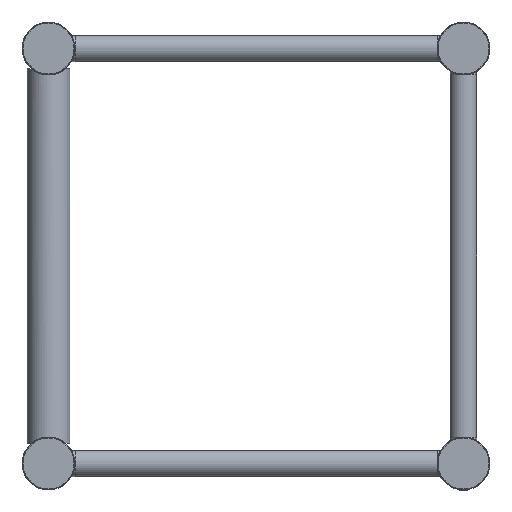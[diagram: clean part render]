
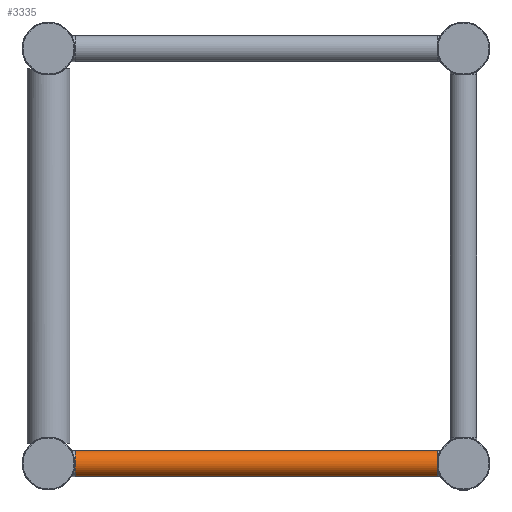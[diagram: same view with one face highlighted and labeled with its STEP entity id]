
A CAD part, left-side view. The second image highlights one B-rep face of the part: STEP entity #3335.
In plain terms, the highlighted cylindrical face has radius 15 mm (diameter 30 mm), a full revolution.
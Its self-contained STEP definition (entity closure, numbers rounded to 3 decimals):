
#105=FACE_BOUND('',#653,.T.);
#348=CYLINDRICAL_SURFACE('',#3577,15.);
#432=FACE_OUTER_BOUND('',#652,.T.);
#652=EDGE_LOOP('',(#2197,#2198));
#653=EDGE_LOOP('',(#2199,#2200));
#955=CIRCLE('',#3568,15.);
#956=CIRCLE('',#3570,15.);
#961=CIRCLE('',#3576,15.);
#962=CIRCLE('',#3578,15.);
#1419=VERTEX_POINT('',#6042);
#1420=VERTEX_POINT('',#6043);
#1421=VERTEX_POINT('',#6047);
#1423=VERTEX_POINT('',#6050);
#1728=EDGE_CURVE('',#1419,#1420,#955,.T.);
#1730=EDGE_CURVE('',#1421,#1423,#956,.T.);
#1738=EDGE_CURVE('',#1423,#1421,#961,.T.);
#1739=EDGE_CURVE('',#1420,#1419,#962,.T.);
#2197=ORIENTED_EDGE('',*,*,#1738,.F.);
#2198=ORIENTED_EDGE('',*,*,#1730,.F.);
#2199=ORIENTED_EDGE('',*,*,#1739,.F.);
#2200=ORIENTED_EDGE('',*,*,#1728,.F.);
#3335=ADVANCED_FACE('',(#432,#105),#348,.T.);
#3568=AXIS2_PLACEMENT_3D('',#6045,#4000,#4001);
#3570=AXIS2_PLACEMENT_3D('',#6051,#4005,#4006);
#3576=AXIS2_PLACEMENT_3D('',#6065,#4020,#4021);
#3577=AXIS2_PLACEMENT_3D('',#6066,#4022,#4023);
#3578=AXIS2_PLACEMENT_3D('',#6067,#4024,#4025);
#4000=DIRECTION('center_axis',(0.,-1.,0.));
#4001=DIRECTION('ref_axis',(1.,0.,0.));
#4005=DIRECTION('center_axis',(0.,1.,0.));
#4006=DIRECTION('ref_axis',(1.,0.,0.));
#4020=DIRECTION('center_axis',(0.,1.,0.));
#4021=DIRECTION('ref_axis',(1.,0.,0.));
#4022=DIRECTION('center_axis',(0.,1.,0.));
#4023=DIRECTION('ref_axis',(1.,0.,0.));
#4024=DIRECTION('center_axis',(0.,-1.,0.));
#4025=DIRECTION('ref_axis',(1.,0.,0.));
#6042=CARTESIAN_POINT('',(110.,30.,-470.));
#6043=CARTESIAN_POINT('',(80.,30.,-470.));
#6045=CARTESIAN_POINT('Origin',(95.,30.,-470.));
#6047=CARTESIAN_POINT('',(110.,440.,-470.));
#6050=CARTESIAN_POINT('',(80.,440.,-470.));
#6051=CARTESIAN_POINT('Origin',(95.,440.,-470.));
#6065=CARTESIAN_POINT('Origin',(95.,440.,-470.));
#6066=CARTESIAN_POINT('Origin',(95.,30.,-470.));
#6067=CARTESIAN_POINT('Origin',(95.,30.,-470.));
